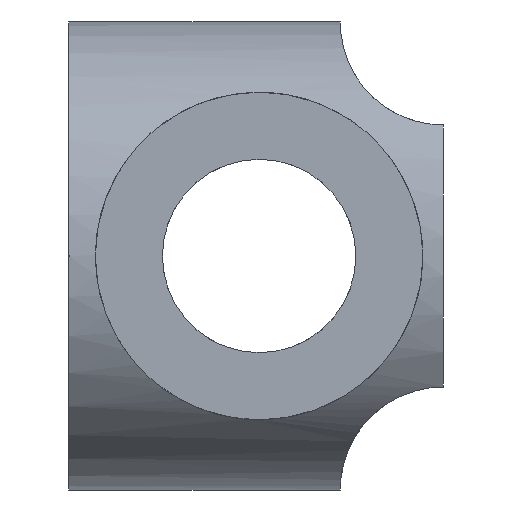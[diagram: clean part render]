
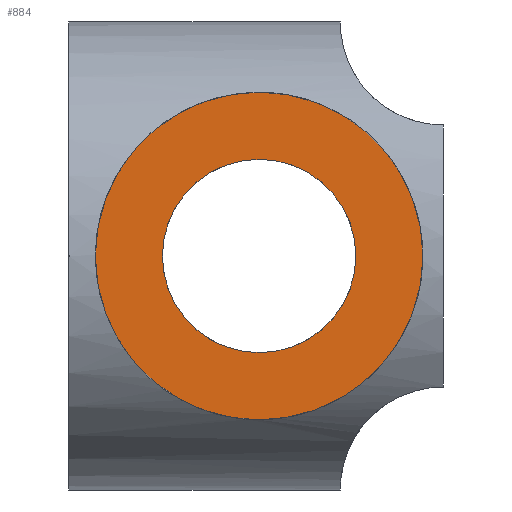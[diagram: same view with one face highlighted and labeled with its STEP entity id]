
A CAD part, left-side view. The second image highlights one B-rep face of the part: STEP entity #884.
In plain terms, the highlighted planar face has unit normal (-1, 0, 0).
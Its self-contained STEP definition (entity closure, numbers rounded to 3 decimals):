
#109 = DIRECTION ( 'NONE',  ( 0., 0., -1. ) ) ;
#110 = DIRECTION ( 'NONE',  ( 1., 0., 0. ) ) ;
#112 = PLANE ( 'NONE',  #348 ) ;
#115 = CARTESIAN_POINT ( 'NONE',  ( 1.5, -3., 0. ) ) ;
#190 = CARTESIAN_POINT ( 'NONE',  ( 1.5, -6.1, -5.25 ) ) ;
#200 = CARTESIAN_POINT ( 'NONE',  ( 1.5, -6.1, -3.1 ) ) ;
#221 = CARTESIAN_POINT ( 'NONE',  ( 1.5, -6.1, 3.1 ) ) ;
#223 = CARTESIAN_POINT ( 'NONE',  ( 1.5, -6.1, 5.25 ) ) ;
#271 = DIRECTION ( 'NONE',  ( 0., 0., 1. ) ) ;
#273 = DIRECTION ( 'NONE',  ( -1., 0., 0. ) ) ;
#274 = CARTESIAN_POINT ( 'NONE',  ( 1.5, -6.1, 0. ) ) ;
#281 = DIRECTION ( 'NONE',  ( -1., 0., 0. ) ) ;
#286 = CARTESIAN_POINT ( 'NONE',  ( 1.5, -6.1, 0. ) ) ;
#294 = DIRECTION ( 'NONE',  ( 0., 0., 1. ) ) ;
#298 = DIRECTION ( 'NONE',  ( -1., 0., 0. ) ) ;
#299 = CARTESIAN_POINT ( 'NONE',  ( 1.5, -6.1, 0. ) ) ;
#317 = DIRECTION ( 'NONE',  ( 0., 0., 1. ) ) ;
#348 = AXIS2_PLACEMENT_3D ( 'NONE', #115, #110, #109 ) ;
#360 = AXIS2_PLACEMENT_3D ( 'NONE', #274, #273, #271 ) ;
#362 = AXIS2_PLACEMENT_3D ( 'NONE', #299, #298, #294 ) ;
#363 = AXIS2_PLACEMENT_3D ( 'NONE', #286, #281, #317 ) ;
#371 = AXIS2_PLACEMENT_3D ( 'NONE', #829, #828, #827 ) ;
#376 = EDGE_CURVE ( 'NONE', #560, #637, #538, .T. ) ;
#393 = EDGE_CURVE ( 'NONE', #614, #563, #515, .T. ) ;
#404 = EDGE_CURVE ( 'NONE', #637, #560, #502, .T. ) ;
#408 = EDGE_CURVE ( 'NONE', #563, #614, #494, .T. ) ;
#439 = FACE_OUTER_BOUND ( 'NONE', #618, .T. ) ;
#446 = FACE_BOUND ( 'NONE', #579, .T. ) ;
#494 = CIRCLE ( 'NONE', #360, 3.1 ) ;
#502 = CIRCLE ( 'NONE', #362, 5.25 ) ;
#515 = CIRCLE ( 'NONE', #363, 3.1 ) ;
#538 = CIRCLE ( 'NONE', #371, 5.25 ) ;
#560 = VERTEX_POINT ( 'NONE', #223 ) ;
#563 = VERTEX_POINT ( 'NONE', #221 ) ;
#579 = EDGE_LOOP ( 'NONE', ( #666, #667 ) ) ;
#614 = VERTEX_POINT ( 'NONE', #200 ) ;
#618 = EDGE_LOOP ( 'NONE', ( #668, #669 ) ) ;
#637 = VERTEX_POINT ( 'NONE', #190 ) ;
#666 = ORIENTED_EDGE ( 'NONE', *, *, #408, .F. ) ;
#667 = ORIENTED_EDGE ( 'NONE', *, *, #393, .F. ) ;
#668 = ORIENTED_EDGE ( 'NONE', *, *, #376, .T. ) ;
#669 = ORIENTED_EDGE ( 'NONE', *, *, #404, .T. ) ;
#827 = DIRECTION ( 'NONE',  ( 0., 0., 1. ) ) ;
#828 = DIRECTION ( 'NONE',  ( -1., 0., 0. ) ) ;
#829 = CARTESIAN_POINT ( 'NONE',  ( 1.5, -6.1, 0. ) ) ;
#884 = ADVANCED_FACE ( 'NONE', ( #446, #439 ), #112, .F. ) ;
